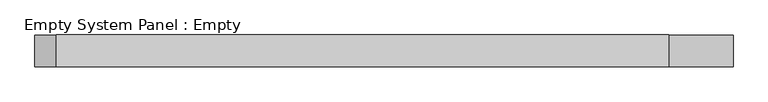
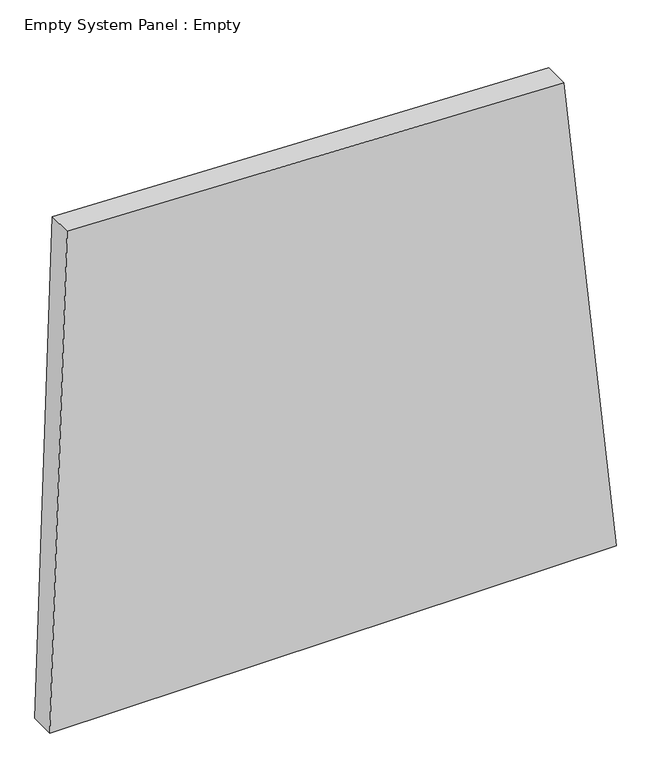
"""IFC4 building model written with IfcOpenShell, lengths in millimetres: plate geometry, Empty System Panel : Empty."""

from ifc_helpers import new_model, si_unit, frame, origin, place, context, project, spatial, polyline, outline, extrude, source, transform, mapped, element, save


def empty_system_panel_empty_7f29d1d9(model_context):
    return source(origin(), model_context, "Body", "SweptSolid", [
        extrude(outline(polyline([(0.0, -1120.1612337), (0.0, 1120.1612337), (2008.8444331, 913.3418789), (2073.8845458, -1051.4244249), (0.0, -1120.1612337)])), frame((0.0, -50.8, 0.0), z_axis=(0.0, 1.0, 0.0), x_axis=(0.0, 0.0, 1.0)), (0.0, 0.0, 1.0), 101.6),
    ])


if __name__ == "__main__":
    model = new_model("IFC4")
    model_context = context("Model", 3, world=origin())
    ifc_project = project(units=[si_unit("LENGTHUNIT", "METRE", prefix="MILLI")], contexts=[model_context])
    site = spatial("IfcSite", under=ifc_project)
    building = spatial("IfcBuilding", under=site)
    placement = place(None, origin())
    empty_system_panel_empty_shape = empty_system_panel_empty_7f29d1d9(model_context)
    element("IfcPlate", 1, ObjectType="Empty System Panel : Empty", at=placement, inside=building, context=model_context, shape_type="MappedRepresentation", body=[
        mapped(empty_system_panel_empty_shape, transform((0.0, 0.0, 0.0), x_axis=(1.0, 0.0, 0.0), y_axis=(0.0, 1.0, 0.0), z_axis=(0.0, 0.0, 1.0))),
    ])
    save(model, "model.ifc")
